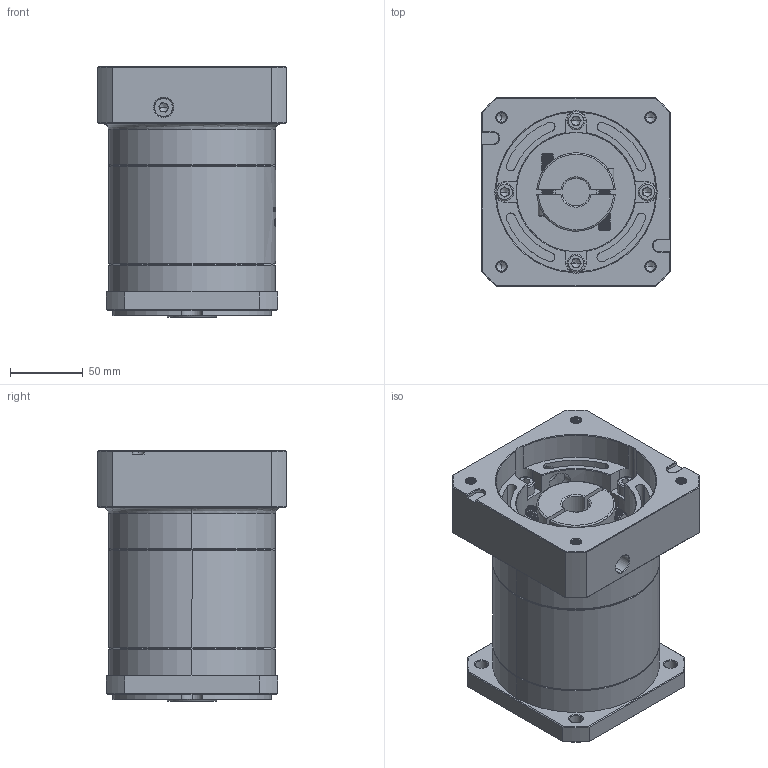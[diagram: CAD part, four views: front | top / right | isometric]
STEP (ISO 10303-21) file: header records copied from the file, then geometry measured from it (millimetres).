
FILE_DESCRIPTION (( 'STEP AP214' ), '1' );
FILE_NAME ('ZF120A-K25-L2-19-110-145-M8.step', '2023-03-07T09:37:31', ( '' ), ( '' ), 'SwSTEP 2.0', 'SolidWorks 2016', '' );
FILE_SCHEMA (( 'AUTOMOTIVE_DESIGN' ));
Length unit declared in the file: millimetre
Products named in the file (1): ZF120A-K25-L2-19-110-145-M8
Bounding box: 130 x 130 x 172.5 mm (x, y, z)
Volume: 1708731.4 mm3; surface area: 190080.4 mm2
Topology: 6 solids, 6 shells, 1945 faces, 5131 edges, 3278 vertices
Faces by surface type: plane 876, cylinder 416, cone 320, bspline 314, torus 19
Entity records: 104933 total; most frequent: CARTESIAN_POINT 39009, ORIENTED_EDGE 10206, DIRECTION 7980, EDGE_CURVE 5103, VERTEX_POINT 3278, LINE 2770, VECTOR 2770, AXIS2_PLACEMENT_3D 2605
